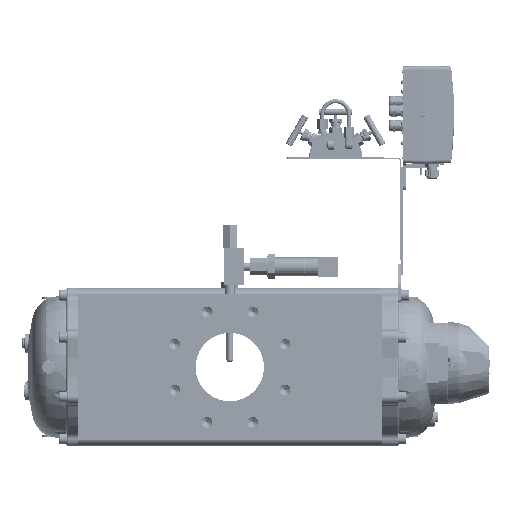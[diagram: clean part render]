
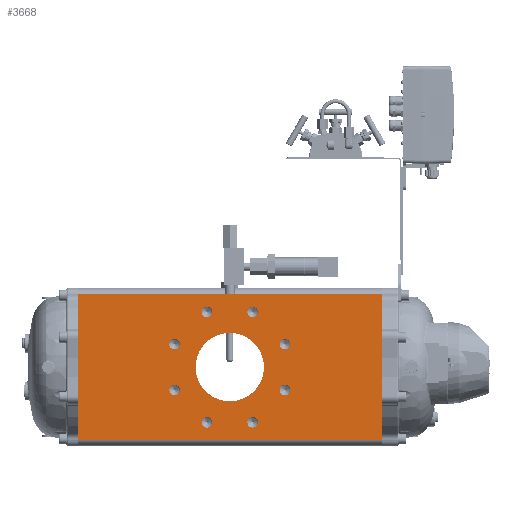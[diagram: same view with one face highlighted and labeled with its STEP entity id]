
A CAD part, front view. The second image highlights one B-rep face of the part: STEP entity #3668.
In plain terms, the highlighted planar face has unit normal (0, -1, 0).
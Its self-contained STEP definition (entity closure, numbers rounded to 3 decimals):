
#3668=ADVANCED_FACE('',(#286374,#286376,#286378,#286380,#286382,#286384,#286386,
#286388,#286390,#286392),#286394,.T.);
#286374=FACE_BOUND('',#286375,.T.);
#286375=EDGE_LOOP('',(#563842,#563843,#563844,#563845));
#286376=FACE_BOUND('',#286377,.T.);
#286377=EDGE_LOOP('',(#563846));
#286378=FACE_BOUND('',#286379,.T.);
#286379=EDGE_LOOP('',(#563847));
#286380=FACE_BOUND('',#286381,.T.);
#286381=EDGE_LOOP('',(#563848));
#286382=FACE_BOUND('',#286383,.T.);
#286383=EDGE_LOOP('',(#563849));
#286384=FACE_BOUND('',#286385,.T.);
#286385=EDGE_LOOP('',(#563850));
#286386=FACE_BOUND('',#286387,.T.);
#286387=EDGE_LOOP('',(#563851));
#286388=FACE_BOUND('',#286389,.T.);
#286389=EDGE_LOOP('',(#563852));
#286390=FACE_BOUND('',#286391,.T.);
#286391=EDGE_LOOP('',(#563853));
#286392=FACE_BOUND('',#286393,.T.);
#286393=EDGE_LOOP('',(#563854));
#286394=PLANE('',#286395);
#286395=AXIS2_PLACEMENT_3D('',#286396,#286397,#286398);
#286396=CARTESIAN_POINT('',(-458.,-120.5,110.));
#286397=DIRECTION('',(0.,-1.,0.));
#286398=DIRECTION('',(0.,0.,-1.));
#563842=ORIENTED_EDGE('',*,*,#776411,.T.);
#563843=ORIENTED_EDGE('',*,*,#776462,.T.);
#563844=ORIENTED_EDGE('',*,*,#776373,.T.);
#563845=ORIENTED_EDGE('',*,*,#776461,.F.);
#563846=ORIENTED_EDGE('',*,*,#776463,.T.);
#563847=ORIENTED_EDGE('',*,*,#776464,.T.);
#563848=ORIENTED_EDGE('',*,*,#776465,.T.);
#563849=ORIENTED_EDGE('',*,*,#776466,.T.);
#563850=ORIENTED_EDGE('',*,*,#776467,.T.);
#563851=ORIENTED_EDGE('',*,*,#776468,.T.);
#563852=ORIENTED_EDGE('',*,*,#776469,.T.);
#563853=ORIENTED_EDGE('',*,*,#776470,.T.);
#563854=ORIENTED_EDGE('',*,*,#776471,.T.);
#776373=EDGE_CURVE('',#866208,#866206,#866209,.T.);
#776411=EDGE_CURVE('',#866283,#866281,#866284,.T.);
#776461=EDGE_CURVE('',#866283,#866206,#866366,.T.);
#776462=EDGE_CURVE('',#866281,#866208,#866367,.T.);
#776463=EDGE_CURVE('',#866368,#866368,#866369,.T.);
#776464=EDGE_CURVE('',#866370,#866370,#866371,.T.);
#776465=EDGE_CURVE('',#866372,#866372,#866373,.T.);
#776466=EDGE_CURVE('',#866374,#866374,#866375,.T.);
#776467=EDGE_CURVE('',#866376,#866376,#866377,.T.);
#776468=EDGE_CURVE('',#866378,#866378,#866379,.T.);
#776469=EDGE_CURVE('',#866380,#866380,#866381,.T.);
#776470=EDGE_CURVE('',#866382,#866382,#866383,.T.);
#776471=EDGE_CURVE('',#866384,#866384,#866385,.T.);
#866206=VERTEX_POINT('',#1020235);
#866208=VERTEX_POINT('',#1020239);
#866209=LINE('',#1020240,#1020241);
#866281=VERTEX_POINT('',#1020412);
#866283=VERTEX_POINT('',#1020416);
#866284=LINE('',#1020417,#1020418);
#866366=LINE('',#1020733,#1020734);
#866367=LINE('',#1020736,#1020737);
#866368=VERTEX_POINT('',#1020739);
#866369=CIRCLE('',#1020740,7.917);
#866370=VERTEX_POINT('',#1020744);
#866371=CIRCLE('',#1020745,7.917);
#866372=VERTEX_POINT('',#1020749);
#866373=CIRCLE('',#1020750,7.917);
#866374=VERTEX_POINT('',#1020754);
#866375=CIRCLE('',#1020755,7.917);
#866376=VERTEX_POINT('',#1020759);
#866377=CIRCLE('',#1020760,7.917);
#866378=VERTEX_POINT('',#1020764);
#866379=CIRCLE('',#1020765,7.917);
#866380=VERTEX_POINT('',#1020769);
#866381=CIRCLE('',#1020770,7.917);
#866382=VERTEX_POINT('',#1020774);
#866383=CIRCLE('',#1020775,51.5);
#866384=VERTEX_POINT('',#1020779);
#866385=CIRCLE('',#1020780,7.917);
#1020235=CARTESIAN_POINT('',(0.,-120.5,110.));
#1020239=CARTESIAN_POINT('',(0.,-120.5,-110.));
#1020240=CARTESIAN_POINT('',(0.,-120.5,-110.));
#1020241=VECTOR('',#1020242,1.);
#1020242=DIRECTION('',(0.,0.,1.));
#1020412=CARTESIAN_POINT('',(-458.,-120.5,-110.));
#1020416=CARTESIAN_POINT('',(-458.,-120.5,110.));
#1020417=CARTESIAN_POINT('',(-458.,-120.5,110.));
#1020418=VECTOR('',#1020419,1.);
#1020419=DIRECTION('',(0.,0.,-1.));
#1020733=CARTESIAN_POINT('',(-458.,-120.5,110.));
#1020734=VECTOR('',#1020735,1.);
#1020735=DIRECTION('',(1.,0.,0.));
#1020736=CARTESIAN_POINT('',(-458.,-120.5,-110.));
#1020737=VECTOR('',#1020738,1.);
#1020738=DIRECTION('',(1.,0.,0.));
#1020739=CARTESIAN_POINT('',(-255.524,-120.5,83.149));
#1020740=AXIS2_PLACEMENT_3D('',#1020741,#1020742,#1020743);
#1020741=CARTESIAN_POINT('',(-263.442,-120.5,83.149));
#1020742=DIRECTION('',(0.,1.,0.));
#1020743=DIRECTION('',(1.,0.,0.));
#1020744=CARTESIAN_POINT('',(-304.232,-120.5,34.442));
#1020745=AXIS2_PLACEMENT_3D('',#1020746,#1020747,#1020748);
#1020746=CARTESIAN_POINT('',(-312.149,-120.5,34.442));
#1020747=DIRECTION('',(0.,1.,0.));
#1020748=DIRECTION('',(1.,0.,0.));
#1020749=CARTESIAN_POINT('',(-137.933,-120.5,34.442));
#1020750=AXIS2_PLACEMENT_3D('',#1020751,#1020752,#1020753);
#1020751=CARTESIAN_POINT('',(-145.851,-120.5,34.442));
#1020752=DIRECTION('',(0.,1.,0.));
#1020753=DIRECTION('',(1.,0.,0.));
#1020754=CARTESIAN_POINT('',(-137.933,-120.5,-34.442));
#1020755=AXIS2_PLACEMENT_3D('',#1020756,#1020757,#1020758);
#1020756=CARTESIAN_POINT('',(-145.851,-120.5,-34.442));
#1020757=DIRECTION('',(0.,1.,0.));
#1020758=DIRECTION('',(1.,0.,0.));
#1020759=CARTESIAN_POINT('',(-186.641,-120.5,-83.149));
#1020760=AXIS2_PLACEMENT_3D('',#1020761,#1020762,#1020763);
#1020761=CARTESIAN_POINT('',(-194.558,-120.5,-83.149));
#1020762=DIRECTION('',(0.,1.,0.));
#1020763=DIRECTION('',(1.,0.,0.));
#1020764=CARTESIAN_POINT('',(-255.524,-120.5,-83.149));
#1020765=AXIS2_PLACEMENT_3D('',#1020766,#1020767,#1020768);
#1020766=CARTESIAN_POINT('',(-263.442,-120.5,-83.149));
#1020767=DIRECTION('',(0.,1.,0.));
#1020768=DIRECTION('',(1.,0.,0.));
#1020769=CARTESIAN_POINT('',(-304.232,-120.5,-34.442));
#1020770=AXIS2_PLACEMENT_3D('',#1020771,#1020772,#1020773);
#1020771=CARTESIAN_POINT('',(-312.149,-120.5,-34.442));
#1020772=DIRECTION('',(0.,1.,0.));
#1020773=DIRECTION('',(1.,0.,0.));
#1020774=CARTESIAN_POINT('',(-280.5,-120.5,0.));
#1020775=AXIS2_PLACEMENT_3D('',#1020776,#1020777,#1020778);
#1020776=CARTESIAN_POINT('',(-229.,-120.5,0.));
#1020777=DIRECTION('',(0.,1.,0.));
#1020778=DIRECTION('',(-1.,0.,0.));
#1020779=CARTESIAN_POINT('',(-186.641,-120.5,83.149));
#1020780=AXIS2_PLACEMENT_3D('',#1020781,#1020782,#1020783);
#1020781=CARTESIAN_POINT('',(-194.558,-120.5,83.149));
#1020782=DIRECTION('',(0.,1.,0.));
#1020783=DIRECTION('',(1.,0.,0.));
